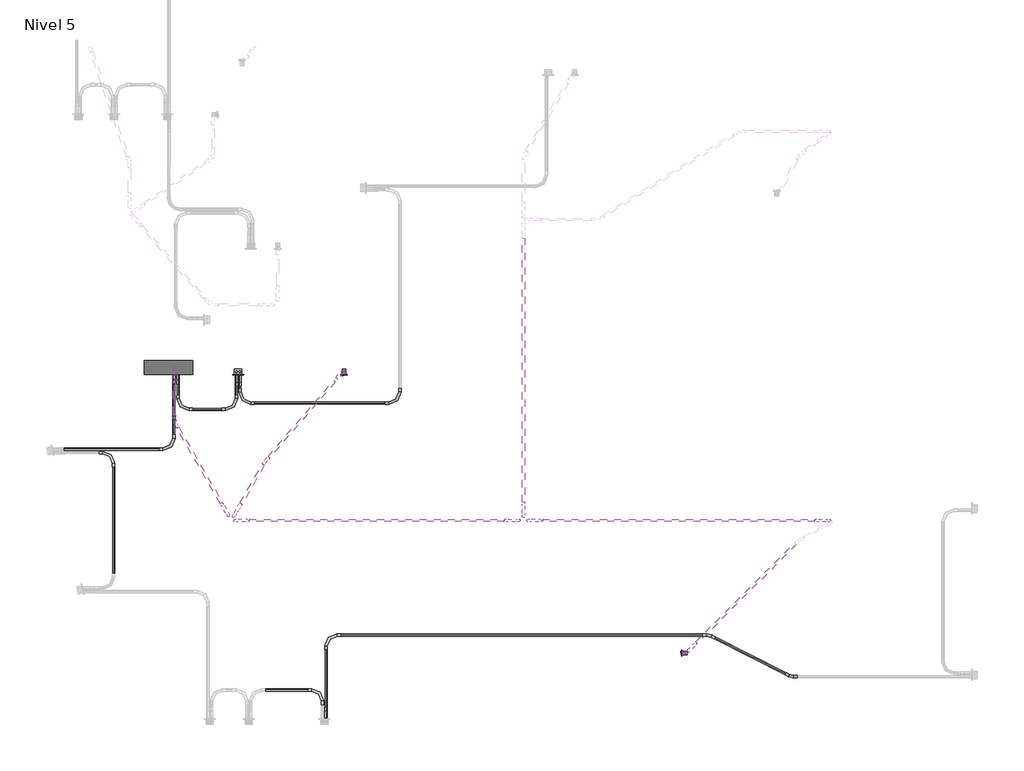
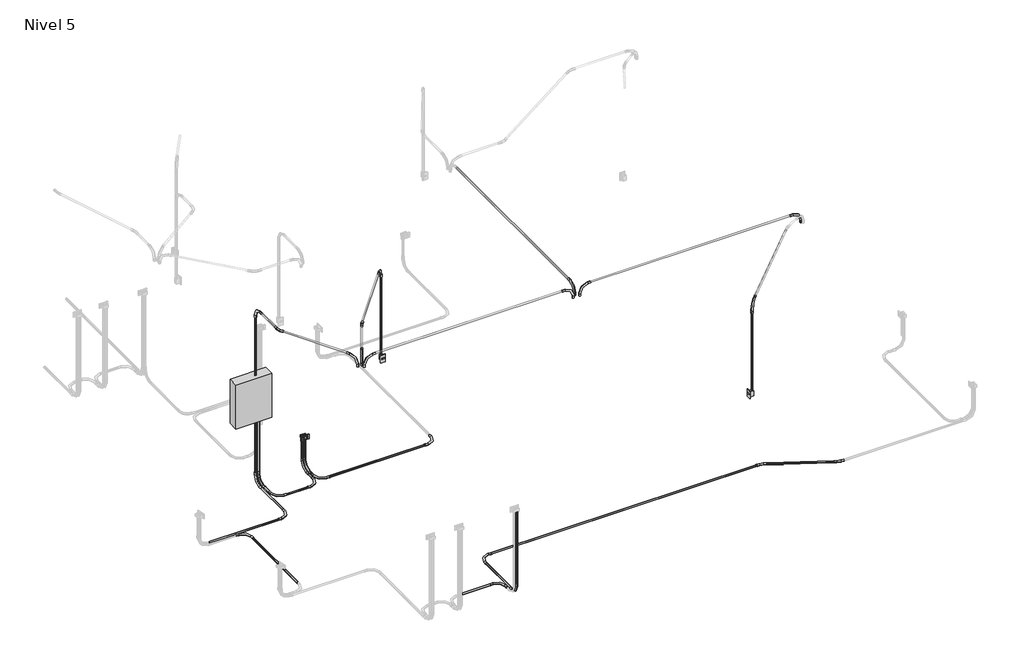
# One storey, part 3 of 9: 28 cable carrier segments, 27 cable carrier fittings, 2 proxies, 2 switching devices.
"""IFC4 building model written with IfcOpenShell, lengths in millimetres."""

from ifc_helpers import new_model, si_unit, point, frame, frame_2d, origin, place, context, project, spatial, circle_curve, trimmed, segment, composite_curve, outline, extrude, transform, mapped, element, save
from components import proxy_125_a_fe578df2, gfci_180f1b41, m_codo_de_tubo_extremo_liso_pvc_9da73e12, m_codo_de_tubo_extremo_liso_pvc_48a36ed6, m_codo_de_tubo_extremo_liso_pvc_102f0f41, m_codo_de_tubo_extremo_liso_pvc_e6ab1ad8, m_codo_de_tubo_extremo_liso_pvc_f0e475e2, switching_device_22fed34b

model = new_model("IFC4")

# Units and contexts
model_context = context("Model", 3, world=origin())
ifc_project = project(units=[si_unit("LENGTHUNIT", "METRE", prefix="MILLI")], contexts=[model_context])

# Site, building, storey
site = spatial("IfcSite", under=ifc_project)
building = spatial("IfcBuilding", under=site)
storey = spatial("IfcBuildingStorey", under=building, Name="Nivel 5", Elevation=10750.0)

# Proxies
placement = place(None, origin())
proxy_125_a_shape = proxy_125_a_fe578df2(model_context)
element("IfcBuildingElementProxy", 1, Name="M_Cuadro de control de accesorios e iluminación - 480V MLO : 125 A", ObjectType="M_Cuadro de control de accesorios e iluminación - 480V MLO : 125 A", at=placement, inside=storey, context=model_context, shape_type="MappedRepresentation", body=[
    mapped(proxy_125_a_shape, transform((826.3061441, 3735.0, 11576.1274047), x_axis=(1.0, 0.0, 0.0), y_axis=(0.0, 0.0, 1.0), z_axis=(0.0, -1.0, 0.0))),
])
gfci_shape = gfci_180f1b41(model_context)
element("IfcBuildingElementProxy", 2, Name="Tomacorriente doble 220V : GFCI", ObjectType="Tomacorriente doble 220V : GFCI", at=placement, inside=storey, context=model_context, shape_type="MappedRepresentation", body=[
    mapped(gfci_shape, transform((1551.6727574, 3735.0, 11150.0), x_axis=(0.0, 0.0, 1.0), y_axis=(-1.0, 0.0, 0.0), z_axis=(0.0, -1.0, 0.0))),
])

# Cable carrier fittings
m_codo_de_tubo_extremo_liso_pvc_shape = m_codo_de_tubo_extremo_liso_pvc_9da73e12(model_context)
element("IfcCableCarrierFitting", 3, ObjectType="M_Codo de tubo - Extremo liso - PVC : CODO POTENCIA", at=placement, inside=storey, context=model_context, shape_type="MappedRepresentation", body=[
    mapped(m_codo_de_tubo_extremo_liso_pvc_shape, transform((2470.7446223, 1013.3517222, 10680.0), x_axis=(-1.0, 0.0, 0.0), y_axis=(0.0, -1.0, 0.0), z_axis=(0.0, 0.0, 1.0))),
])
element("IfcCableCarrierFitting", 4, ObjectType="M_Codo de tubo - Extremo liso - PVC : CODO POTENCIA", at=placement, inside=storey, context=model_context, shape_type="MappedRepresentation", body=[
    mapped(m_codo_de_tubo_extremo_liso_pvc_shape, transform((2470.7446223, 105.3628882, 10680.0), x_axis=(0.0, 0.0, -1.0), y_axis=(0.0, 1.0, 0.0), z_axis=(1.0, 0.0, 0.0))),
])
element("IfcCableCarrierFitting", 5, ObjectType="M_Codo de tubo - Extremo liso - PVC : CODO POTENCIA", at=placement, inside=storey, context=model_context, shape_type="MappedRepresentation", body=[
    mapped(m_codo_de_tubo_extremo_liso_pvc_shape, transform((3240.3628882, 3436.0346106, 10680.0), x_axis=(1.0, 0.0, 0.0), y_axis=(0.0, 1.0, 0.0), z_axis=(0.0, 0.0, 1.0))),
])
element("IfcCableCarrierFitting", 6, ObjectType="M_Codo de tubo - Extremo liso - PVC : CODO POTENCIA", at=placement, inside=storey, context=model_context, shape_type="MappedRepresentation", body=[
    mapped(m_codo_de_tubo_extremo_liso_pvc_shape, transform((1569.7045773, 3436.0346106, 10680.0), x_axis=(0.0, -1.0, 0.0), y_axis=(1.0, 0.0, 0.0), z_axis=(0.0, 0.0, 1.0))),
])
element("IfcCableCarrierFitting", 7, ObjectType="M_Codo de tubo - Extremo liso - PVC : CODO POTENCIA", at=placement, inside=storey, context=model_context, shape_type="MappedRepresentation", body=[
    mapped(m_codo_de_tubo_extremo_liso_pvc_shape, transform((1569.7045773, 3764.6371118, 10680.0), x_axis=(0.0, 0.0, -1.0), y_axis=(0.0, -1.0, 0.0), z_axis=(-1.0, 0.0, 0.0))),
])
element("IfcCableCarrierFitting", 8, ObjectType="M_Codo de tubo - Extremo liso - PVC : CODO POTENCIA", at=placement, inside=storey, context=model_context, shape_type="MappedRepresentation", body=[
    mapped(m_codo_de_tubo_extremo_liso_pvc_shape, transform((1533.6409376, 3764.6371118, 10680.0), x_axis=(0.0, 0.0, -1.0), y_axis=(0.0, -1.0, 0.0), z_axis=(-1.0, 0.0, 0.0))),
])
element("IfcCableCarrierFitting", 9, ObjectType="M_Codo de tubo - Extremo liso - PVC : CODO POTENCIA", at=placement, inside=storey, context=model_context, shape_type="MappedRepresentation", body=[
    mapped(m_codo_de_tubo_extremo_liso_pvc_shape, transform((1533.6409376, 3369.6371118, 10680.0), x_axis=(1.0, 0.0, 0.0), y_axis=(0.0, 1.0, 0.0), z_axis=(0.0, 0.0, 1.0))),
])
element("IfcCableCarrierFitting", 10, ObjectType="M_Codo de tubo - Extremo liso - PVC : CODO POTENCIA", at=placement, inside=storey, context=model_context, shape_type="MappedRepresentation", body=[
    mapped(m_codo_de_tubo_extremo_liso_pvc_shape, transform((926.1409376, 3369.6371118, 10680.0), x_axis=(0.0, -1.0, 0.0), y_axis=(1.0, 0.0, 0.0), z_axis=(0.0, 0.0, 1.0))),
])
element("IfcCableCarrierFitting", 11, ObjectType="M_Codo de tubo - Extremo liso - PVC : CODO POTENCIA", at=placement, inside=storey, context=model_context, shape_type="MappedRepresentation", body=[
    mapped(m_codo_de_tubo_extremo_liso_pvc_shape, transform((881.2514738, 2953.8439904, 10680.0), x_axis=(1.0, 0.0, 0.0), y_axis=(0.0, 1.0, 0.0), z_axis=(0.0, 0.0, 1.0))),
])
element("IfcCableCarrierFitting", 12, ObjectType="M_Codo de tubo - Extremo liso - PVC : CODO POTENCIA", at=placement, inside=storey, context=model_context, shape_type="MappedRepresentation", body=[
    mapped(m_codo_de_tubo_extremo_liso_pvc_shape, transform((253.0068358, 2918.5991828, 10680.0), x_axis=(0.0, 1.0, 0.0), y_axis=(-1.0, 0.0, 0.0), z_axis=(0.0, 0.0, 1.0))),
])
element("IfcCableCarrierFitting", 13, ObjectType="M_Codo de tubo - Extremo liso - PVC : CODO POTENCIA", at=placement, inside=storey, context=model_context, shape_type="MappedRepresentation", body=[
    mapped(m_codo_de_tubo_extremo_liso_pvc_shape, transform((2434.6809826, 438.3082217, 10680.0), x_axis=(0.0, 1.0, 0.0), y_axis=(-1.0, 0.0, 0.0), z_axis=(0.0, 0.0, 1.0))),
])
element("IfcCableCarrierFitting", 14, ObjectType="M_Codo de tubo - Extremo liso - PVC : CODO POTENCIA", at=placement, inside=storey, context=model_context, shape_type="MappedRepresentation", body=[
    mapped(m_codo_de_tubo_extremo_liso_pvc_shape, transform((926.1409376, 3789.6371118, 10680.0), x_axis=(0.0, 1.0, 0.0), y_axis=(0.0, 0.0, 1.0), z_axis=(1.0, 0.0, 0.0))),
])
element("IfcCableCarrierFitting", 15, ObjectType="M_Codo de tubo - Extremo liso - PVC : CODO POTENCIA", at=placement, inside=storey, context=model_context, shape_type="MappedRepresentation", body=[
    mapped(m_codo_de_tubo_extremo_liso_pvc_shape, transform((881.2514738, 3789.6371118, 10680.0), x_axis=(0.0, 1.0, 0.0), y_axis=(0.0, 0.0, 1.0), z_axis=(1.0, 0.0, 0.0))),
])
m_codo_de_tubo_extremo_liso_pvc_2_shape = m_codo_de_tubo_extremo_liso_pvc_48a36ed6(model_context)
element("IfcCableCarrierFitting", 16, ObjectType="M_Codo de tubo - Extremo liso - PVC : CODO POTENCIA", at=placement, inside=storey, context=model_context, shape_type="MappedRepresentation", body=[
    mapped(m_codo_de_tubo_extremo_liso_pvc_2_shape, transform((7324.6371118, 577.5208425, 10680.0), x_axis=(0.8910065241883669, -0.45399049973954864, 0.0), y_axis=(0.45399049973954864, 0.8910065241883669, 0.0), z_axis=(0.0, 0.0, 1.0))),
])
element("IfcCableCarrierFitting", 17, ObjectType="M_Codo de tubo - Extremo liso - PVC : CODO POTENCIA", at=placement, inside=storey, context=model_context, shape_type="MappedRepresentation", body=[
    mapped(m_codo_de_tubo_extremo_liso_pvc_2_shape, transform((6469.2708486, 1013.3517222, 10680.0), x_axis=(-0.8910065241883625, 0.45399049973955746, 0.0), y_axis=(-0.45399049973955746, -0.8910065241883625, 0.0), z_axis=(0.0, 0.0, 1.0))),
])
element("IfcCableCarrierFitting", 18, ObjectType="M_Codo de tubo - Extremo liso - PVC : CODO ILUMINACION", at=placement, inside=storey, context=model_context, shape_type="MappedRepresentation", body=[
    mapped(m_codo_de_tubo_extremo_liso_pvc_shape, transform((1517.2936606, 2209.6030183, 13300.0), x_axis=(-1.0, 0.0, 0.0), y_axis=(0.0, 0.0, -1.0), z_axis=(0.0, -1.0, 0.0))),
])
element("IfcCableCarrierFitting", 19, ObjectType="M_Codo de tubo - Extremo liso - PVC : CODO ILUMINACION", at=placement, inside=storey, context=model_context, shape_type="MappedRepresentation", body=[
    mapped(m_codo_de_tubo_extremo_liso_pvc_shape, transform((4577.2936606, 2209.6030183, 13300.0), x_axis=(-1.0, 0.0, 0.0), y_axis=(0.0, 0.0, -1.0), z_axis=(0.0, -1.0, 0.0))),
])
element("IfcCableCarrierFitting", 20, ObjectType="M_Codo de tubo - Extremo liso - PVC : CODO ILUMINACION", at=placement, inside=storey, context=model_context, shape_type="MappedRepresentation", body=[
    mapped(m_codo_de_tubo_extremo_liso_pvc_shape, transform((4530.988472, 2248.4082068, 13300.0), x_axis=(0.0, -1.0, 0.0), y_axis=(0.0, 0.0, -1.0), z_axis=(1.0, 0.0, 0.0))),
])
element("IfcCableCarrierFitting", 21, ObjectType="M_Codo de tubo - Extremo liso - PVC : CODO ILUMINACION", at=placement, inside=storey, context=model_context, shape_type="MappedRepresentation", body=[
    mapped(m_codo_de_tubo_extremo_liso_pvc_shape, transform((886.5944399, 3799.6395975, 13300.0), x_axis=(0.0, 1.0, 0.0), y_axis=(0.0, 0.0, -1.0), z_axis=(-1.0, 0.0, 0.0))),
])
element("IfcCableCarrierFitting", 22, ObjectType="M_Codo de tubo - Extremo liso - PVC : CODO ILUMINACION", at=placement, inside=storey, context=model_context, shape_type="MappedRepresentation", body=[
    mapped(m_codo_de_tubo_extremo_liso_pvc_shape, transform((2657.9160131, 3778.1388757, 13300.0), x_axis=(0.0, 0.0, 1.0), y_axis=(-0.6546054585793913, -0.7559706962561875, 0.0), z_axis=(0.7559706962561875, -0.6546054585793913, 0.0))),
])
element("IfcCableCarrierFitting", 23, ObjectType="M_Codo de tubo - Extremo liso - PVC : CODO ILUMINACION", at=placement, inside=storey, context=model_context, shape_type="MappedRepresentation", body=[
    mapped(m_codo_de_tubo_extremo_liso_pvc_shape, transform((6228.1388757, 823.9403259, 13300.0), x_axis=(0.0, 0.0, 1.0), y_axis=(0.7044738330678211, 0.7097299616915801, 0.0), z_axis=(-0.7097299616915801, 0.7044738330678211, 0.0))),
])
m_codo_de_tubo_extremo_liso_pvc_3_shape = m_codo_de_tubo_extremo_liso_pvc_102f0f41(model_context)
element("IfcCableCarrierFitting", 24, ObjectType="M_Codo de tubo - Extremo liso - PVC : CODO ILUMINACION", at=placement, inside=storey, context=model_context, shape_type="MappedRepresentation", body=[
    mapped(m_codo_de_tubo_extremo_liso_pvc_3_shape, transform((4484.1412417, 2209.6030183, 13300.0), x_axis=(1.0, 0.0, 0.0), y_axis=(0.0, 0.0, 1.0), z_axis=(0.0, -1.0, 0.0))),
])
element("IfcCableCarrierFitting", 25, ObjectType="M_Codo de tubo - Extremo liso - PVC : CODO ILUMINACION", at=placement, inside=storey, context=model_context, shape_type="MappedRepresentation", body=[
    mapped(m_codo_de_tubo_extremo_liso_pvc_3_shape, transform((7724.1412417, 2209.6030183, 13300.0), x_axis=(1.0, 0.0, 0.0), y_axis=(0.0, 0.0, 1.0), z_axis=(0.0, -1.0, 0.0))),
])
element("IfcCableCarrierFitting", 26, ObjectType="M_Codo de tubo - Extremo liso - PVC : CODO ILUMINACION", at=placement, inside=storey, context=model_context, shape_type="MappedRepresentation", body=[
    mapped(m_codo_de_tubo_extremo_liso_pvc_3_shape, transform((1452.7944399, 2258.9524302, 13300.0), x_axis=(0.5000000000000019, -0.8660254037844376, 0.0), y_axis=(0.0, 0.0, 1.0), z_axis=(-0.8660254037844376, -0.5000000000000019, 0.0))),
])
element("IfcCableCarrierFitting", 27, ObjectType="M_Codo de tubo - Extremo liso - PVC : CODO ILUMINACION", at=placement, inside=storey, context=model_context, shape_type="MappedRepresentation", body=[
    mapped(m_codo_de_tubo_extremo_liso_pvc_3_shape, transform((1504.8873227, 2252.5093021, 13300.0), x_axis=(-0.4999999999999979, -0.8660254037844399, 0.0), y_axis=(0.0, 0.0, 1.0), z_axis=(-0.8660254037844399, 0.4999999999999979, 0.0))),
])
m_codo_de_tubo_extremo_liso_pvc_4_shape = m_codo_de_tubo_extremo_liso_pvc_e6ab1ad8(model_context)
element("IfcCableCarrierFitting", 28, ObjectType="M_Codo de tubo - Extremo liso - PVC : CODO ILUMINACION", at=placement, inside=storey, context=model_context, shape_type="MappedRepresentation", body=[
    mapped(m_codo_de_tubo_extremo_liso_pvc_4_shape, transform((886.5944399, 3239.6395975, 13300.0), x_axis=(0.0, -1.0, 0.0), y_axis=(1.0, 0.0, 0.0), z_axis=(0.0, 0.0, 1.0))),
])
m_codo_de_tubo_extremo_liso_pvc_5_shape = m_codo_de_tubo_extremo_liso_pvc_f0e475e2(model_context)
element("IfcCableCarrierFitting", 29, ObjectType="M_Codo de tubo - Extremo liso - PVC : CODO ILUMINACION", at=placement, inside=storey, context=model_context, shape_type="MappedRepresentation", body=[
    mapped(m_codo_de_tubo_extremo_liso_pvc_5_shape, transform((1841.0873227, 2834.8247836, 13300.0), x_axis=(-0.6546054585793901, -0.7559706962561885, 0.0), y_axis=(0.7559706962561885, -0.6546054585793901, 0.0), z_axis=(0.0, 0.0, 1.0))),
])

# Cable carrier segments
element("IfcCableCarrierSegment", 30, ObjectType="PVC-SEL, POTENCIA", at=placement, inside=storey, context=model_context, shape_type="SweptSolid", body=[
    extrude(outline(composite_curve([segment(trimmed(circle_curve(frame_2d((10680.0, 2470.7446223)), 11.71), [point((10680.0, 2459.0346223))], [point((10668.29, 2470.7446223))], False, "CARTESIAN"), True, "CONTINUOUS"), segment(trimmed(circle_curve(frame_2d((10680.0, 2470.7446223)), 11.71), [point((10668.29, 2470.7446223))], [point((10680.0, 2482.4546223))], False, "CARTESIAN"), True, "CONTINUOUS"), segment(trimmed(circle_curve(frame_2d((10680.0, 2470.7446223)), 11.71), [point((10680.0, 2482.4546223))], [point((10691.71, 2470.7446223))], False, "CARTESIAN"), True, "CONTINUOUS"), segment(trimmed(circle_curve(frame_2d((10680.0, 2470.7446223)), 11.71), [point((10691.71, 2470.7446223))], [point((10680.0, 2459.0346223))], False, "CARTESIAN"), True, "CONTINUOUS")], self_intersect=False)), frame((0.0, 257.7628882, 0.0), z_axis=(0.0, 1.0, 0.0), x_axis=(0.0, 0.0, 1.0)), (0.0, 0.0, 1.0), 603.188834),
])
element("IfcCableCarrierSegment", 31, ObjectType="PVC-SEL, POTENCIA", at=placement, inside=storey, context=model_context, shape_type="SweptSolid", body=[
    extrude(outline(composite_curve([segment(trimmed(circle_curve(frame_2d((2470.7446223, 105.3628882)), 11.71), [point((2482.4546223, 105.3628882))], [point((2470.7446223, 93.6528882))], False, "CARTESIAN"), True, "CONTINUOUS"), segment(trimmed(circle_curve(frame_2d((2470.7446223, 105.3628882)), 11.71), [point((2470.7446223, 93.6528882))], [point((2459.0346223, 105.3628882))], False, "CARTESIAN"), True, "CONTINUOUS"), segment(trimmed(circle_curve(frame_2d((2470.7446223, 105.3628882)), 11.71), [point((2459.0346223, 105.3628882))], [point((2470.7446223, 117.0728882))], False, "CARTESIAN"), True, "CONTINUOUS"), segment(trimmed(circle_curve(frame_2d((2470.7446223, 105.3628882)), 11.71), [point((2470.7446223, 117.0728882))], [point((2482.4546223, 105.3628882))], False, "CARTESIAN"), True, "CONTINUOUS")], self_intersect=False)), frame((0.0, 0.0, 10832.4), z_axis=(0.0, 0.0, 1.0), x_axis=(1.0, 0.0, 0.0)), (0.0, 0.0, 1.0), 1097.3020537),
])
element("IfcCableCarrierSegment", 32, ObjectType="PVC-SEL, POTENCIA", at=placement, inside=storey, context=model_context, shape_type="SweptSolid", body=[
    extrude(outline(composite_curve([segment(trimmed(circle_curve(frame_2d((2953.8439904, 10680.0)), 11.71), [point((2965.5539904, 10680.0))], [point((2953.8439904, 10668.29))], False, "CARTESIAN"), True, "CONTINUOUS"), segment(trimmed(circle_curve(frame_2d((2953.8439904, 10680.0)), 11.71), [point((2953.8439904, 10668.29))], [point((2942.1339904, 10680.0))], False, "CARTESIAN"), True, "CONTINUOUS"), segment(trimmed(circle_curve(frame_2d((2953.8439904, 10680.0)), 11.71), [point((2942.1339904, 10680.0))], [point((2953.8439904, 10691.71))], False, "CARTESIAN"), True, "CONTINUOUS"), segment(trimmed(circle_curve(frame_2d((2953.8439904, 10680.0)), 11.71), [point((2953.8439904, 10691.71))], [point((2965.5539904, 10680.0))], False, "CARTESIAN"), True, "CONTINUOUS")], self_intersect=False)), frame((-267.2344754, 0.0, 0.0), z_axis=(1.0, 0.0, 0.0), x_axis=(0.0, 1.0, 0.0)), (0.0, 0.0, 1.0), 996.0859493),
])
element("IfcCableCarrierSegment", 33, ObjectType="PVC-SEL, POTENCIA", at=placement, inside=storey, context=model_context, shape_type="SweptSolid", body=[
    extrude(outline(composite_curve([segment(trimmed(circle_curve(frame_2d((0.0, 11.71)), 11.71), [point((11.71, 11.71))], [point((0.0, 0.0))], False, "CARTESIAN"), True, "CONTINUOUS"), segment(trimmed(circle_curve(frame_2d((0.0, 11.71)), 11.71), [point((0.0, 0.0))], [point((-11.71, 11.71))], False, "CARTESIAN"), True, "CONTINUOUS"), segment(trimmed(circle_curve(frame_2d((0.0, 11.71)), 11.71), [point((-11.71, 11.71))], [point((0.0, 23.42))], False, "CARTESIAN"), True, "CONTINUOUS"), segment(trimmed(circle_curve(frame_2d((0.0, 11.71)), 11.71), [point((0.0, 23.42))], [point((11.71, 11.71))], False, "CARTESIAN"), True, "CONTINUOUS")], self_intersect=False)), frame((7266.2396512, 607.2758348, 10691.71), z_axis=(-0.8910065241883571, 0.45399049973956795, 0.0), x_axis=(0.45399049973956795, 0.8910065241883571, 0.0)), (0.0, 0.0, 1.0), 828.9179957),
])
element("IfcCableCarrierSegment", 34, ObjectType="PVC-SEL, POTENCIA", at=placement, inside=storey, context=model_context, shape_type="SweptSolid", body=[
    extrude(outline(composite_curve([segment(trimmed(circle_curve(frame_2d((1013.3517222, 10680.0)), 11.71), [point((1025.0617222, 10680.0))], [point((1013.3517222, 10668.29))], False, "CARTESIAN"), True, "CONTINUOUS"), segment(trimmed(circle_curve(frame_2d((1013.3517222, 10680.0)), 11.71), [point((1013.3517222, 10668.29))], [point((1001.6417222, 10680.0))], False, "CARTESIAN"), True, "CONTINUOUS"), segment(trimmed(circle_curve(frame_2d((1013.3517222, 10680.0)), 11.71), [point((1001.6417222, 10680.0))], [point((1013.3517222, 10691.71))], False, "CARTESIAN"), True, "CONTINUOUS"), segment(trimmed(circle_curve(frame_2d((1013.3517222, 10680.0)), 11.71), [point((1013.3517222, 10691.71))], [point((1025.0617222, 10680.0))], False, "CARTESIAN"), True, "CONTINUOUS")], self_intersect=False)), frame((2623.1446223, 0.0, 0.0), z_axis=(1.0, 0.0, 0.0), x_axis=(0.0, 1.0, 0.0)), (0.0, 0.0, 1.0), 3780.5852241),
])
element("IfcCableCarrierSegment", 35, ObjectType="PVC-SEL, POTENCIA", at=placement, inside=storey, context=model_context, shape_type="SweptSolid", body=[
    extrude(outline(composite_curve([segment(trimmed(circle_curve(frame_2d((3436.0346106, 10680.0)), 11.71), [point((3447.7446106, 10680.0))], [point((3436.0346106, 10668.29))], False, "CARTESIAN"), True, "CONTINUOUS"), segment(trimmed(circle_curve(frame_2d((3436.0346106, 10680.0)), 11.71), [point((3436.0346106, 10668.29))], [point((3424.3246106, 10680.0))], False, "CARTESIAN"), True, "CONTINUOUS"), segment(trimmed(circle_curve(frame_2d((3436.0346106, 10680.0)), 11.71), [point((3424.3246106, 10680.0))], [point((3436.0346106, 10691.71))], False, "CARTESIAN"), True, "CONTINUOUS"), segment(trimmed(circle_curve(frame_2d((3436.0346106, 10680.0)), 11.71), [point((3436.0346106, 10691.71))], [point((3447.7446106, 10680.0))], False, "CARTESIAN"), True, "CONTINUOUS")], self_intersect=False)), frame((1722.1045773, 0.0, 0.0), z_axis=(1.0, 0.0, 0.0), x_axis=(0.0, 1.0, 0.0)), (0.0, 0.0, 1.0), 1365.858311),
])
element("IfcCableCarrierSegment", 36, ObjectType="PVC-SEL, POTENCIA", at=placement, inside=storey, context=model_context, shape_type="SweptSolid", body=[
    extrude(outline(composite_curve([segment(trimmed(circle_curve(frame_2d((10680.0, 1569.7045773)), 11.71), [point((10680.0, 1581.4145773))], [point((10691.71, 1569.7045773))], False, "CARTESIAN"), True, "CONTINUOUS"), segment(trimmed(circle_curve(frame_2d((10680.0, 1569.7045773)), 11.71), [point((10691.71, 1569.7045773))], [point((10680.0, 1557.9945773))], False, "CARTESIAN"), True, "CONTINUOUS"), segment(trimmed(circle_curve(frame_2d((10680.0, 1569.7045773)), 11.71), [point((10680.0, 1557.9945773))], [point((10668.29, 1569.7045773))], False, "CARTESIAN"), True, "CONTINUOUS"), segment(trimmed(circle_curve(frame_2d((10680.0, 1569.7045773)), 11.71), [point((10668.29, 1569.7045773))], [point((10680.0, 1581.4145773))], False, "CARTESIAN"), True, "CONTINUOUS")], self_intersect=False)), frame((0.0, 3588.4346106, 0.0), z_axis=(0.0, 1.0, 0.0), x_axis=(0.0, 0.0, 1.0)), (0.0, 0.0, 1.0), 23.8025012),
])
element("IfcCableCarrierSegment", 37, ObjectType="PVC-SEL, POTENCIA", at=placement, inside=storey, context=model_context, shape_type="SweptSolid", body=[
    extrude(outline(composite_curve([segment(trimmed(circle_curve(frame_2d((1569.7045773, 3764.6371118)), 11.71), [point((1581.4145773, 3764.6371118))], [point((1569.7045773, 3752.9271118))], False, "CARTESIAN"), True, "CONTINUOUS"), segment(trimmed(circle_curve(frame_2d((1569.7045773, 3764.6371118)), 11.71), [point((1569.7045773, 3752.9271118))], [point((1557.9945773, 3764.6371118))], False, "CARTESIAN"), True, "CONTINUOUS"), segment(trimmed(circle_curve(frame_2d((1569.7045773, 3764.6371118)), 11.71), [point((1557.9945773, 3764.6371118))], [point((1569.7045773, 3776.3471118))], False, "CARTESIAN"), True, "CONTINUOUS"), segment(trimmed(circle_curve(frame_2d((1569.7045773, 3764.6371118)), 11.71), [point((1569.7045773, 3776.3471118))], [point((1581.4145773, 3764.6371118))], False, "CARTESIAN"), True, "CONTINUOUS")], self_intersect=False)), frame((0.0, 0.0, 10832.4), z_axis=(0.0, 0.0, 1.0), x_axis=(1.0, 0.0, 0.0)), (0.0, 0.0, 1.0), 297.3020537),
])
element("IfcCableCarrierSegment", 38, ObjectType="PVC-SEL, POTENCIA", at=placement, inside=storey, context=model_context, shape_type="SweptSolid", body=[
    extrude(outline(composite_curve([segment(trimmed(circle_curve(frame_2d((10680.0, 1533.6409376)), 11.71), [point((10680.0, 1521.9309376))], [point((10668.29, 1533.6409376))], False, "CARTESIAN"), True, "CONTINUOUS"), segment(trimmed(circle_curve(frame_2d((10680.0, 1533.6409376)), 11.71), [point((10668.29, 1533.6409376))], [point((10680.0, 1545.3509376))], False, "CARTESIAN"), True, "CONTINUOUS"), segment(trimmed(circle_curve(frame_2d((10680.0, 1533.6409376)), 11.71), [point((10680.0, 1545.3509376))], [point((10691.71, 1533.6409376))], False, "CARTESIAN"), True, "CONTINUOUS"), segment(trimmed(circle_curve(frame_2d((10680.0, 1533.6409376)), 11.71), [point((10691.71, 1533.6409376))], [point((10680.0, 1521.9309376))], False, "CARTESIAN"), True, "CONTINUOUS")], self_intersect=False)), frame((0.0, 3522.0371118, 0.0), z_axis=(0.0, 1.0, 0.0), x_axis=(0.0, 0.0, 1.0)), (0.0, 0.0, 1.0), 90.2),
])
element("IfcCableCarrierSegment", 39, ObjectType="PVC-SEL, POTENCIA", at=placement, inside=storey, context=model_context, shape_type="SweptSolid", body=[
    extrude(outline(composite_curve([segment(trimmed(circle_curve(frame_2d((1533.6409376, 3764.6371118)), 11.71), [point((1545.3509376, 3764.6371118))], [point((1533.6409376, 3752.9271118))], False, "CARTESIAN"), True, "CONTINUOUS"), segment(trimmed(circle_curve(frame_2d((1533.6409376, 3764.6371118)), 11.71), [point((1533.6409376, 3752.9271118))], [point((1521.9309376, 3764.6371118))], False, "CARTESIAN"), True, "CONTINUOUS"), segment(trimmed(circle_curve(frame_2d((1533.6409376, 3764.6371118)), 11.71), [point((1521.9309376, 3764.6371118))], [point((1533.6409376, 3776.3471118))], False, "CARTESIAN"), True, "CONTINUOUS"), segment(trimmed(circle_curve(frame_2d((1533.6409376, 3764.6371118)), 11.71), [point((1533.6409376, 3776.3471118))], [point((1545.3509376, 3764.6371118))], False, "CARTESIAN"), True, "CONTINUOUS")], self_intersect=False)), frame((0.0, 0.0, 10832.4), z_axis=(0.0, 0.0, 1.0), x_axis=(1.0, 0.0, 0.0)), (0.0, 0.0, 1.0), 297.3020537),
])
element("IfcCableCarrierSegment", 40, ObjectType="PVC-SEL, POTENCIA", at=placement, inside=storey, context=model_context, shape_type="SweptSolid", body=[
    extrude(outline(composite_curve([segment(trimmed(circle_curve(frame_2d((3369.6371118, 10680.0)), 11.71), [point((3381.3471118, 10680.0))], [point((3369.6371118, 10668.29))], False, "CARTESIAN"), True, "CONTINUOUS"), segment(trimmed(circle_curve(frame_2d((3369.6371118, 10680.0)), 11.71), [point((3369.6371118, 10668.29))], [point((3357.9271118, 10680.0))], False, "CARTESIAN"), True, "CONTINUOUS"), segment(trimmed(circle_curve(frame_2d((3369.6371118, 10680.0)), 11.71), [point((3357.9271118, 10680.0))], [point((3369.6371118, 10691.71))], False, "CARTESIAN"), True, "CONTINUOUS"), segment(trimmed(circle_curve(frame_2d((3369.6371118, 10680.0)), 11.71), [point((3369.6371118, 10691.71))], [point((3381.3471118, 10680.0))], False, "CARTESIAN"), True, "CONTINUOUS")], self_intersect=False)), frame((1078.5409376, 0.0, 0.0), z_axis=(1.0, 0.0, 0.0), x_axis=(0.0, 1.0, 0.0)), (0.0, 0.0, 1.0), 302.7),
])
element("IfcCableCarrierSegment", 41, ObjectType="PVC-SEL, POTENCIA", at=placement, inside=storey, context=model_context, shape_type="SweptSolid", body=[
    extrude(outline(composite_curve([segment(trimmed(circle_curve(frame_2d((10680.0, 926.1409376)), 11.71), [point((10680.0, 937.8509376))], [point((10691.71, 926.1409376))], False, "CARTESIAN"), True, "CONTINUOUS"), segment(trimmed(circle_curve(frame_2d((10680.0, 926.1409376)), 11.71), [point((10691.71, 926.1409376))], [point((10680.0, 914.4309376))], False, "CARTESIAN"), True, "CONTINUOUS"), segment(trimmed(circle_curve(frame_2d((10680.0, 926.1409376)), 11.71), [point((10680.0, 914.4309376))], [point((10668.29, 926.1409376))], False, "CARTESIAN"), True, "CONTINUOUS"), segment(trimmed(circle_curve(frame_2d((10680.0, 926.1409376)), 11.71), [point((10668.29, 926.1409376))], [point((10680.0, 937.8509376))], False, "CARTESIAN"), True, "CONTINUOUS")], self_intersect=False)), frame((0.0, 3522.0371118, 0.0), z_axis=(0.0, 1.0, 0.0), x_axis=(0.0, 0.0, 1.0)), (0.0, 0.0, 1.0), 115.2),
])
element("IfcCableCarrierSegment", 42, ObjectType="PVC-SEL, POTENCIA", at=placement, inside=storey, context=model_context, shape_type="SweptSolid", body=[
    extrude(outline(composite_curve([segment(trimmed(circle_curve(frame_2d((10680.0, 881.2514738)), 11.71), [point((10680.0, 869.5414738))], [point((10668.29, 881.2514738))], False, "CARTESIAN"), True, "CONTINUOUS"), segment(trimmed(circle_curve(frame_2d((10680.0, 881.2514738)), 11.71), [point((10668.29, 881.2514738))], [point((10680.0, 892.9614738))], False, "CARTESIAN"), True, "CONTINUOUS"), segment(trimmed(circle_curve(frame_2d((10680.0, 881.2514738)), 11.71), [point((10680.0, 892.9614738))], [point((10691.71, 881.2514738))], False, "CARTESIAN"), True, "CONTINUOUS"), segment(trimmed(circle_curve(frame_2d((10680.0, 881.2514738)), 11.71), [point((10691.71, 881.2514738))], [point((10680.0, 869.5414738))], False, "CARTESIAN"), True, "CONTINUOUS")], self_intersect=False)), frame((0.0, 3106.2439904, 0.0), z_axis=(0.0, 1.0, 0.0), x_axis=(0.0, 0.0, 1.0)), (0.0, 0.0, 1.0), 530.9931214),
])
element("IfcCableCarrierSegment", 43, ObjectType="PVC-SEL, POTENCIA", at=placement, inside=storey, context=model_context, shape_type="SweptSolid", body=[
    extrude(outline(composite_curve([segment(trimmed(circle_curve(frame_2d((10680.0, 253.0068358)), 11.71), [point((10680.0, 241.2968358))], [point((10668.29, 253.0068358))], False, "CARTESIAN"), True, "CONTINUOUS"), segment(trimmed(circle_curve(frame_2d((10680.0, 253.0068358)), 11.71), [point((10668.29, 253.0068358))], [point((10680.0, 264.7168358))], False, "CARTESIAN"), True, "CONTINUOUS"), segment(trimmed(circle_curve(frame_2d((10680.0, 253.0068358)), 11.71), [point((10680.0, 264.7168358))], [point((10691.71, 253.0068358))], False, "CARTESIAN"), True, "CONTINUOUS"), segment(trimmed(circle_curve(frame_2d((10680.0, 253.0068358)), 11.71), [point((10691.71, 253.0068358))], [point((10680.0, 241.2968358))], False, "CARTESIAN"), True, "CONTINUOUS")], self_intersect=False)), frame((0.0, 1654.8579832, 0.0), z_axis=(0.0, 1.0, 0.0), x_axis=(0.0, 0.0, 1.0)), (0.0, 0.0, 1.0), 1111.3411996),
])
element("IfcCableCarrierSegment", 44, ObjectType="PVC-SEL, POTENCIA", at=placement, inside=storey, context=model_context, shape_type="SweptSolid", body=[
    extrude(outline(composite_curve([segment(trimmed(circle_curve(frame_2d((438.3082217, 10680.0)), 11.71), [point((450.0182217, 10680.0))], [point((438.3082217, 10668.29))], False, "CARTESIAN"), True, "CONTINUOUS"), segment(trimmed(circle_curve(frame_2d((438.3082217, 10680.0)), 11.71), [point((438.3082217, 10668.29))], [point((426.5982217, 10680.0))], False, "CARTESIAN"), True, "CONTINUOUS"), segment(trimmed(circle_curve(frame_2d((438.3082217, 10680.0)), 11.71), [point((426.5982217, 10680.0))], [point((438.3082217, 10691.71))], False, "CARTESIAN"), True, "CONTINUOUS"), segment(trimmed(circle_curve(frame_2d((438.3082217, 10680.0)), 11.71), [point((438.3082217, 10691.71))], [point((450.0182217, 10680.0))], False, "CARTESIAN"), True, "CONTINUOUS")], self_intersect=False)), frame((1833.4636718, 0.0, 0.0), z_axis=(1.0, 0.0, 0.0), x_axis=(0.0, 1.0, 0.0)), (0.0, 0.0, 1.0), 448.8173109),
])
element("IfcCableCarrierSegment", 45, ObjectType="PVC-SEL, POTENCIA", at=placement, inside=storey, context=model_context, shape_type="SweptSolid", body=[
    extrude(outline(composite_curve([segment(trimmed(circle_curve(frame_2d((926.1409376, 3789.6371118)), 11.71), [point((914.4309376, 3789.6371118))], [point((926.1409376, 3801.3471118))], False, "CARTESIAN"), True, "CONTINUOUS"), segment(trimmed(circle_curve(frame_2d((926.1409376, 3789.6371118)), 11.71), [point((926.1409376, 3801.3471118))], [point((937.8509376, 3789.6371118))], False, "CARTESIAN"), True, "CONTINUOUS"), segment(trimmed(circle_curve(frame_2d((926.1409376, 3789.6371118)), 11.71), [point((937.8509376, 3789.6371118))], [point((926.1409376, 3777.9271118))], False, "CARTESIAN"), True, "CONTINUOUS"), segment(trimmed(circle_curve(frame_2d((926.1409376, 3789.6371118)), 11.71), [point((926.1409376, 3777.9271118))], [point((914.4309376, 3789.6371118))], False, "CARTESIAN"), True, "CONTINUOUS")], self_intersect=False)), frame((0.0, 0.0, 10832.4), z_axis=(0.0, 0.0, 1.0), x_axis=(1.0, 0.0, 0.0)), (0.0, 0.0, 1.0), 817.6),
])
element("IfcCableCarrierSegment", 46, ObjectType="PVC-SEL, POTENCIA", at=placement, inside=storey, context=model_context, shape_type="SweptSolid", body=[
    extrude(outline(composite_curve([segment(trimmed(circle_curve(frame_2d((881.2514738, 3789.6371118)), 11.71), [point((869.5414738, 3789.6371118))], [point((881.2514738, 3801.3471118))], False, "CARTESIAN"), True, "CONTINUOUS"), segment(trimmed(circle_curve(frame_2d((881.2514738, 3789.6371118)), 11.71), [point((881.2514738, 3801.3471118))], [point((892.9614738, 3789.6371118))], False, "CARTESIAN"), True, "CONTINUOUS"), segment(trimmed(circle_curve(frame_2d((881.2514738, 3789.6371118)), 11.71), [point((892.9614738, 3789.6371118))], [point((881.2514738, 3777.9271118))], False, "CARTESIAN"), True, "CONTINUOUS"), segment(trimmed(circle_curve(frame_2d((881.2514738, 3789.6371118)), 11.71), [point((881.2514738, 3777.9271118))], [point((869.5414738, 3789.6371118))], False, "CARTESIAN"), True, "CONTINUOUS")], self_intersect=False)), frame((0.0, 0.0, 10832.4), z_axis=(0.0, 0.0, 1.0), x_axis=(1.0, 0.0, 0.0)), (0.0, 0.0, 1.0), 817.6),
])
element("IfcCableCarrierSegment", 47, ObjectType="PVC-SEL ILUMINACION", at=placement, inside=storey, context=model_context, shape_type="SweptSolid", body=[
    extrude(outline(composite_curve([segment(trimmed(circle_curve(frame_2d((2209.6030183, 13300.0)), 11.71), [point((2221.3130183, 13300.0))], [point((2209.6030183, 13288.29))], False, "CARTESIAN"), True, "CONTINUOUS"), segment(trimmed(circle_curve(frame_2d((2209.6030183, 13300.0)), 11.71), [point((2209.6030183, 13288.29))], [point((2197.8930183, 13300.0))], False, "CARTESIAN"), True, "CONTINUOUS"), segment(trimmed(circle_curve(frame_2d((2209.6030183, 13300.0)), 11.71), [point((2197.8930183, 13300.0))], [point((2209.6030183, 13311.71))], False, "CARTESIAN"), True, "CONTINUOUS"), segment(trimmed(circle_curve(frame_2d((2209.6030183, 13300.0)), 11.71), [point((2209.6030183, 13311.71))], [point((2221.3130183, 13300.0))], False, "CARTESIAN"), True, "CONTINUOUS")], self_intersect=False)), frame((1669.6936606, 0.0, 0.0), z_axis=(1.0, 0.0, 0.0), x_axis=(0.0, 1.0, 0.0)), (0.0, 0.0, 1.0), 2662.0475811),
])
element("IfcCableCarrierSegment", 48, ObjectType="PVC-SEL ILUMINACION", at=placement, inside=storey, context=model_context, shape_type="SweptSolid", body=[
    extrude(outline(composite_curve([segment(trimmed(circle_curve(frame_2d((2209.6030183, 13300.0)), 11.71), [point((2221.3130183, 13300.0))], [point((2209.6030183, 13288.29))], False, "CARTESIAN"), True, "CONTINUOUS"), segment(trimmed(circle_curve(frame_2d((2209.6030183, 13300.0)), 11.71), [point((2209.6030183, 13288.29))], [point((2197.8930183, 13300.0))], False, "CARTESIAN"), True, "CONTINUOUS"), segment(trimmed(circle_curve(frame_2d((2209.6030183, 13300.0)), 11.71), [point((2197.8930183, 13300.0))], [point((2209.6030183, 13311.71))], False, "CARTESIAN"), True, "CONTINUOUS"), segment(trimmed(circle_curve(frame_2d((2209.6030183, 13300.0)), 11.71), [point((2209.6030183, 13311.71))], [point((2221.3130183, 13300.0))], False, "CARTESIAN"), True, "CONTINUOUS")], self_intersect=False)), frame((4729.6936606, 0.0, 0.0), z_axis=(1.0, 0.0, 0.0), x_axis=(0.0, 1.0, 0.0)), (0.0, 0.0, 1.0), 2842.0475811),
])
element("IfcCableCarrierSegment", 49, ObjectType="PVC-SEL ILUMINACION", at=placement, inside=storey, context=model_context, shape_type="SweptSolid", body=[
    extrude(outline(composite_curve([segment(trimmed(circle_curve(frame_2d((13300.0, 4530.988472)), 11.71), [point((13300.0, 4542.698472))], [point((13311.71, 4530.988472))], False, "CARTESIAN"), True, "CONTINUOUS"), segment(trimmed(circle_curve(frame_2d((13300.0, 4530.988472)), 11.71), [point((13311.71, 4530.988472))], [point((13300.0, 4519.278472))], False, "CARTESIAN"), True, "CONTINUOUS"), segment(trimmed(circle_curve(frame_2d((13300.0, 4530.988472)), 11.71), [point((13300.0, 4519.278472))], [point((13288.29, 4530.988472))], False, "CARTESIAN"), True, "CONTINUOUS"), segment(trimmed(circle_curve(frame_2d((13300.0, 4530.988472)), 11.71), [point((13288.29, 4530.988472))], [point((13300.0, 4542.698472))], False, "CARTESIAN"), True, "CONTINUOUS")], self_intersect=False)), frame((0.0, 2400.8082068, 0.0), z_axis=(0.0, 1.0, 0.0), x_axis=(0.0, 0.0, 1.0)), (0.0, 0.0, 1.0), 2758.3835863),
])
element("IfcCableCarrierSegment", 50, ObjectType="PVC-SEL ILUMINACION", at=placement, inside=storey, context=model_context, shape_type="SweptSolid", body=[
    extrude(outline(composite_curve([segment(trimmed(circle_curve(frame_2d((0.0, 11.71)), 11.71), [point((11.71, 11.71))], [point((0.0, 0.0))], False, "CARTESIAN"), True, "CONTINUOUS"), segment(trimmed(circle_curve(frame_2d((0.0, 11.71)), 11.71), [point((0.0, 0.0))], [point((-11.7099999, 11.71))], False, "CARTESIAN"), True, "CONTINUOUS"), segment(trimmed(circle_curve(frame_2d((0.0, 11.71)), 11.71), [point((-11.7099999, 11.71))], [point((0.0, 23.42))], False, "CARTESIAN"), True, "CONTINUOUS"), segment(trimmed(circle_curve(frame_2d((0.0, 11.71)), 11.71), [point((0.0, 23.42))], [point((11.71, 11.71))], False, "CARTESIAN"), True, "CONTINUOUS")], self_intersect=False)), frame((1376.5944399, 2390.9347018, 13311.71), z_axis=(-0.5000000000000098, 0.866025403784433, 0.0), x_axis=(0.866025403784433, 0.5000000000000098, 0.0)), (0.0, 0.0, 1.0), 911.2734073),
])
element("IfcCableCarrierSegment", 51, ObjectType="PVC-SEL ILUMINACION", at=placement, inside=storey, context=model_context, shape_type="SweptSolid", body=[
    extrude(outline(composite_curve([segment(trimmed(circle_curve(frame_2d((13300.0, 886.5944399)), 11.71), [point((13300.0, 898.3044399))], [point((13311.71, 886.5944399))], False, "CARTESIAN"), True, "CONTINUOUS"), segment(trimmed(circle_curve(frame_2d((13300.0, 886.5944399)), 11.71), [point((13311.71, 886.5944399))], [point((13300.0, 874.8844399))], False, "CARTESIAN"), True, "CONTINUOUS"), segment(trimmed(circle_curve(frame_2d((13300.0, 886.5944399)), 11.71), [point((13300.0, 874.8844399))], [point((13288.29, 886.5944399))], False, "CARTESIAN"), True, "CONTINUOUS"), segment(trimmed(circle_curve(frame_2d((13300.0, 886.5944399)), 11.71), [point((13288.29, 886.5944399))], [point((13300.0, 898.3044399))], False, "CARTESIAN"), True, "CONTINUOUS")], self_intersect=False)), frame((0.0, 3308.3661902, 0.0), z_axis=(0.0, 1.0, 0.0), x_axis=(0.0, 0.0, 1.0)), (0.0, 0.0, 1.0), 338.8734073),
])
element("IfcCableCarrierSegment", 52, ObjectType="PVC-SEL ILUMINACION", at=placement, inside=storey, context=model_context, shape_type="SweptSolid", body=[
    extrude(outline(composite_curve([segment(trimmed(circle_curve(frame_2d((886.5944399, 3799.6395975)), 11.71), [point((874.8844399, 3799.6395975))], [point((886.5944399, 3811.3495975))], False, "CARTESIAN"), True, "CONTINUOUS"), segment(trimmed(circle_curve(frame_2d((886.5944399, 3799.6395975)), 11.71), [point((886.5944399, 3811.3495975))], [point((898.3044399, 3799.6395975))], False, "CARTESIAN"), True, "CONTINUOUS"), segment(trimmed(circle_curve(frame_2d((886.5944399, 3799.6395975)), 11.71), [point((898.3044399, 3799.6395975))], [point((886.5944399, 3787.9295975))], False, "CARTESIAN"), True, "CONTINUOUS"), segment(trimmed(circle_curve(frame_2d((886.5944399, 3799.6395975)), 11.71), [point((886.5944399, 3787.9295975))], [point((874.8844399, 3799.6395975))], False, "CARTESIAN"), True, "CONTINUOUS")], self_intersect=False)), frame((0.0, 0.0, 12250.0), z_axis=(0.0, 0.0, 1.0), x_axis=(1.0, 0.0, 0.0)), (0.0, 0.0, 1.0), 897.6),
])
element("IfcCableCarrierSegment", 53, ObjectType="PVC-SEL ILUMINACION", at=placement, inside=storey, context=model_context, shape_type="SweptSolid", body=[
    extrude(outline(composite_curve([segment(trimmed(circle_curve(frame_2d((0.0, -11.71)), 11.71), [point((-11.71, -11.71))], [point((0.0, 0.0))], False, "CARTESIAN"), True, "CONTINUOUS"), segment(trimmed(circle_curve(frame_2d((0.0, -11.71)), 11.71), [point((0.0, 0.0))], [point((11.7099999, -11.71))], False, "CARTESIAN"), True, "CONTINUOUS"), segment(trimmed(circle_curve(frame_2d((0.0, -11.71)), 11.71), [point((11.7099999, -11.71))], [point((0.0, -23.42))], False, "CARTESIAN"), True, "CONTINUOUS"), segment(trimmed(circle_curve(frame_2d((0.0, -11.71)), 11.71), [point((0.0, -23.42))], [point((-11.71, -11.71))], False, "CARTESIAN"), True, "CONTINUOUS")], self_intersect=False)), frame((1873.1596189, 2871.8634544, 13288.29), z_axis=(0.65460545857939, 0.7559706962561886, 0.0), x_axis=(0.7559706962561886, -0.65460545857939, 0.0)), (0.0, 0.0, 1.0), 1046.4234805),
])
element("IfcCableCarrierSegment", 54, ObjectType="PVC-SEL ILUMINACION", at=placement, inside=storey, context=model_context, shape_type="SweptSolid", body=[
    extrude(outline(composite_curve([segment(trimmed(circle_curve(frame_2d((2657.9160131, 3778.1388757)), 11.71), [point((2646.2060131, 3778.1388757))], [point((2657.9160131, 3789.8488757))], False, "CARTESIAN"), True, "CONTINUOUS"), segment(trimmed(circle_curve(frame_2d((2657.9160131, 3778.1388757)), 11.71), [point((2657.9160131, 3789.8488757))], [point((2669.6260131, 3778.1388757))], False, "CARTESIAN"), True, "CONTINUOUS"), segment(trimmed(circle_curve(frame_2d((2657.9160131, 3778.1388757)), 11.71), [point((2669.6260131, 3778.1388757))], [point((2657.9160131, 3766.4288757))], False, "CARTESIAN"), True, "CONTINUOUS"), segment(trimmed(circle_curve(frame_2d((2657.9160131, 3778.1388757)), 11.71), [point((2657.9160131, 3766.4288757))], [point((2646.2060131, 3778.1388757))], False, "CARTESIAN"), True, "CONTINUOUS")], self_intersect=False)), frame((0.0, 0.0, 11990.2227463), z_axis=(0.0, 0.0, 1.0), x_axis=(1.0, 0.0, 0.0)), (0.0, 0.0, 1.0), 1157.3772537),
])
element("IfcCableCarrierSegment", 55, ObjectType="PVC-SEL ILUMINACION", at=placement, inside=storey, context=model_context, shape_type="SweptSolid", body=[
    extrude(outline(composite_curve([segment(trimmed(circle_curve(frame_2d((0.0, 11.71)), 11.71), [point((11.71, 11.71))], [point((0.0, 0.0))], False, "CARTESIAN"), True, "CONTINUOUS"), segment(trimmed(circle_curve(frame_2d((0.0, 11.71)), 11.71), [point((0.0, 0.0))], [point((-11.71, 11.71))], False, "CARTESIAN"), True, "CONTINUOUS"), segment(trimmed(circle_curve(frame_2d((0.0, 11.71)), 11.71), [point((-11.71, 11.71))], [point((0.0, 23.42))], False, "CARTESIAN"), True, "CONTINUOUS"), segment(trimmed(circle_curve(frame_2d((0.0, 11.71)), 11.71), [point((0.0, 23.42))], [point((11.71, 11.71))], False, "CARTESIAN"), True, "CONTINUOUS")], self_intersect=False)), frame((1581.0873227, 2384.4915737, 13311.71), z_axis=(0.49999999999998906, 0.866025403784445, 0.0), x_axis=(0.866025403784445, -0.49999999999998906, 0.0)), (0.0, 0.0, 1.0), 471.0051502),
])
element("IfcCableCarrierSegment", 56, ObjectType="PVC-SEL ILUMINACION", at=placement, inside=storey, context=model_context, shape_type="SweptSolid", body=[
    extrude(outline(composite_curve([segment(trimmed(circle_curve(frame_2d((0.0, -11.71)), 11.71), [point((-11.71, -11.71))], [point((0.0, 0.0))], False, "CARTESIAN"), True, "CONTINUOUS"), segment(trimmed(circle_curve(frame_2d((0.0, -11.71)), 11.71), [point((0.0, 0.0))], [point((11.71, -11.71))], False, "CARTESIAN"), True, "CONTINUOUS"), segment(trimmed(circle_curve(frame_2d((0.0, -11.71)), 11.71), [point((11.71, -11.71))], [point((0.0, -23.42))], False, "CARTESIAN"), True, "CONTINUOUS"), segment(trimmed(circle_curve(frame_2d((0.0, -11.71)), 11.71), [point((0.0, -23.42))], [point((-11.71, -11.71))], False, "CARTESIAN"), True, "CONTINUOUS")], self_intersect=False)), frame((6335.5006878, 932.103172, 13288.29), z_axis=(0.7071837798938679, 0.7070297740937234, 0.0), x_axis=(0.7070297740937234, -0.7071837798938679, 0.0)), (0.0, 0.0, 1.0), 1462.9337559),
])
element("IfcCableCarrierSegment", 57, ObjectType="PVC-SEL ILUMINACION", at=placement, inside=storey, context=model_context, shape_type="SweptSolid", body=[
    extrude(outline(composite_curve([segment(trimmed(circle_curve(frame_2d((6228.1388757, 823.9403259)), 11.71), [point((6216.4288757, 823.9403259))], [point((6228.1388757, 835.6503259))], False, "CARTESIAN"), True, "CONTINUOUS"), segment(trimmed(circle_curve(frame_2d((6228.1388757, 823.9403259)), 11.71), [point((6228.1388757, 835.6503259))], [point((6239.8488757, 823.9403259))], False, "CARTESIAN"), True, "CONTINUOUS"), segment(trimmed(circle_curve(frame_2d((6228.1388757, 823.9403259)), 11.71), [point((6239.8488757, 823.9403259))], [point((6228.1388757, 812.2303259))], False, "CARTESIAN"), True, "CONTINUOUS"), segment(trimmed(circle_curve(frame_2d((6228.1388757, 823.9403259)), 11.71), [point((6228.1388757, 812.2303259))], [point((6216.4288757, 823.9403259))], False, "CARTESIAN"), True, "CONTINUOUS")], self_intersect=False)), frame((0.0, 0.0, 11990.2227463), z_axis=(0.0, 0.0, 1.0), x_axis=(1.0, 0.0, 0.0)), (0.0, 0.0, 1.0), 1157.3772537),
])

# Switching devices
switching_device_shape = switching_device_22fed34b(model_context)
element("IfcSwitchingDevice", 58, ObjectType="Interruptor : Tridireccional", at=placement, inside=storey, context=model_context, shape_type="MappedRepresentation", body=[
    mapped(switching_device_shape, transform((2657.9658587, 3735.0, 11950.0), x_axis=(1.0, 0.0, 0.0), y_axis=(0.0, 0.0, 1.0), z_axis=(0.0, -1.0, 0.0))),
])
element("IfcSwitchingDevice", 59, ObjectType="Interruptor : Tridireccional", at=placement, inside=storey, context=model_context, shape_type="MappedRepresentation", body=[
    mapped(switching_device_shape, transform((6185.0, 823.8904802, 11950.0), x_axis=(0.0, -1.0, 0.0), y_axis=(0.0, 0.0, 1.0), z_axis=(-1.0, 0.0, 0.0))),
])

save(model, "model.ifc")
